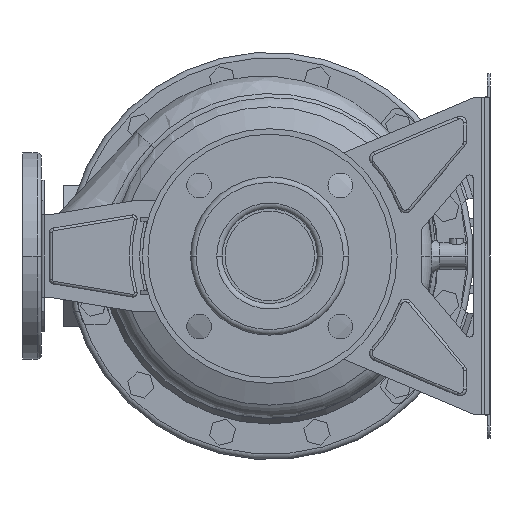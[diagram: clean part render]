
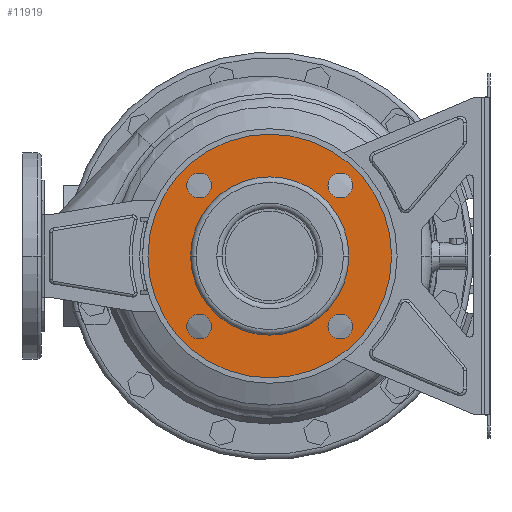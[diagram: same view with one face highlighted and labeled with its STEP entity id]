
A CAD part, left-side view. The second image highlights one B-rep face of the part: STEP entity #11919.
In plain terms, the highlighted planar face has unit normal (-1, 0, 0).
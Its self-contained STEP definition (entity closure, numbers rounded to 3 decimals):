
#11252=CARTESIAN_POINT('',(12.,0.,0.));
#11253=DIRECTION('',(-1.,0.,0.));
#11254=DIRECTION('',(0.,1.,0.));
#11255=AXIS2_PLACEMENT_3D('',#11252,#11253,#11254);
#11260=CARTESIAN_POINT('',(12.,0.,0.));
#11261=DIRECTION('',(1.,0.,0.));
#11262=DIRECTION('',(0.,1.,0.));
#11263=AXIS2_PLACEMENT_3D('',#11260,#11261,#11262);
#11268=CARTESIAN_POINT('',(12.,-51.265,51.265));
#11269=DIRECTION('',(1.,0.,0.));
#11270=DIRECTION('',(0.,1.,0.));
#11271=AXIS2_PLACEMENT_3D('',#11268,#11269,#11270);
#11276=CARTESIAN_POINT('',(12.,-51.265,51.265));
#11277=DIRECTION('',(1.,0.,0.));
#11278=DIRECTION('',(0.,-1.,0.));
#11279=AXIS2_PLACEMENT_3D('',#11276,#11277,#11278);
#11284=CARTESIAN_POINT('',(12.,-51.265,-51.265));
#11285=DIRECTION('',(1.,0.,0.));
#11286=DIRECTION('',(0.,0.,1.));
#11287=AXIS2_PLACEMENT_3D('',#11284,#11285,#11286);
#11292=CARTESIAN_POINT('',(12.,-51.265,-51.265));
#11293=DIRECTION('',(1.,0.,0.));
#11294=DIRECTION('',(0.,0.,-1.));
#11295=AXIS2_PLACEMENT_3D('',#11292,#11293,#11294);
#11300=CARTESIAN_POINT('',(12.,51.265,-51.265));
#11301=DIRECTION('',(1.,0.,0.));
#11302=DIRECTION('',(0.,-1.,0.));
#11303=AXIS2_PLACEMENT_3D('',#11300,#11301,#11302);
#11308=CARTESIAN_POINT('',(12.,51.265,-51.265));
#11309=DIRECTION('',(1.,0.,0.));
#11310=DIRECTION('',(0.,1.,0.));
#11311=AXIS2_PLACEMENT_3D('',#11308,#11309,#11310);
#11316=CARTESIAN_POINT('',(12.,51.265,51.265));
#11317=DIRECTION('',(1.,0.,0.));
#11318=DIRECTION('',(0.,0.,-1.));
#11319=AXIS2_PLACEMENT_3D('',#11316,#11317,#11318);
#11324=CARTESIAN_POINT('',(12.,51.265,51.265));
#11325=DIRECTION('',(1.,0.,0.));
#11326=DIRECTION('',(0.,0.,1.));
#11327=AXIS2_PLACEMENT_3D('',#11324,#11325,#11326);
#11332=CARTESIAN_POINT('',(12.,0.,0.));
#11333=DIRECTION('',(1.,0.,0.));
#11334=DIRECTION('',(0.,1.,0.));
#11335=AXIS2_PLACEMENT_3D('',#11332,#11333,#11334);
#11354=CARTESIAN_POINT('',(12.,0.,0.));
#11355=DIRECTION('',(-1.,0.,0.));
#11356=DIRECTION('',(0.,1.,0.));
#11357=AXIS2_PLACEMENT_3D('',#11354,#11355,#11356);
#11519=CARTESIAN_POINT('',(12.,88.5,0.));
#11521=VERTEX_POINT('',#11519);
#11522=CARTESIAN_POINT('',(12.,57.5,0.));
#11524=VERTEX_POINT('',#11522);
#11551=CARTESIAN_POINT('',(12.,-88.5,0.));
#11553=VERTEX_POINT('',#11551);
#11554=CARTESIAN_POINT('',(12.,-57.5,0.));
#11556=VERTEX_POINT('',#11554);
#11566=CARTESIAN_POINT('',(12.,-42.265,51.265));
#11567=CARTESIAN_POINT('',(12.,-60.265,51.265));
#11568=VERTEX_POINT('',#11566);
#11569=VERTEX_POINT('',#11567);
#11574=CARTESIAN_POINT('',(12.,-51.265,-42.265));
#11575=CARTESIAN_POINT('',(12.,-51.265,-60.265));
#11576=VERTEX_POINT('',#11574);
#11577=VERTEX_POINT('',#11575);
#11582=CARTESIAN_POINT('',(12.,42.265,-51.265));
#11583=CARTESIAN_POINT('',(12.,60.265,-51.265));
#11584=VERTEX_POINT('',#11582);
#11585=VERTEX_POINT('',#11583);
#11590=CARTESIAN_POINT('',(12.,51.265,42.265));
#11591=CARTESIAN_POINT('',(12.,51.265,60.265));
#11592=VERTEX_POINT('',#11590);
#11593=VERTEX_POINT('',#11591);
#11880=CARTESIAN_POINT('',(12.,0.,0.));
#11881=DIRECTION('',(1.,0.,0.));
#11882=DIRECTION('',(0.,-1.,0.));
#11883=AXIS2_PLACEMENT_3D('',#11880,#11881,#11882);
#11884=PLANE('',#11883);
#11885=ORIENTED_EDGE('',*,*,#11873,.F.);
#11886=ORIENTED_EDGE('',*,*,#11862,.T.);
#11887=EDGE_LOOP('',(#11885,#11886));
#11888=FACE_OUTER_BOUND('',#11887,.F.);
#11890=ORIENTED_EDGE('',*,*,#11889,.F.);
#11892=ORIENTED_EDGE('',*,*,#11891,.T.);
#11893=EDGE_LOOP('',(#11890,#11892));
#11894=FACE_BOUND('',#11893,.F.);
#11896=ORIENTED_EDGE('',*,*,#11895,.F.);
#11898=ORIENTED_EDGE('',*,*,#11897,.F.);
#11899=EDGE_LOOP('',(#11896,#11898));
#11900=FACE_BOUND('',#11899,.F.);
#11902=ORIENTED_EDGE('',*,*,#11901,.F.);
#11904=ORIENTED_EDGE('',*,*,#11903,.F.);
#11905=EDGE_LOOP('',(#11902,#11904));
#11906=FACE_BOUND('',#11905,.F.);
#11908=ORIENTED_EDGE('',*,*,#11907,.F.);
#11910=ORIENTED_EDGE('',*,*,#11909,.F.);
#11911=EDGE_LOOP('',(#11908,#11910));
#11912=FACE_BOUND('',#11911,.F.);
#11914=ORIENTED_EDGE('',*,*,#11913,.F.);
#11916=ORIENTED_EDGE('',*,*,#11915,.F.);
#11917=EDGE_LOOP('',(#11914,#11916));
#11918=FACE_BOUND('',#11917,.F.);
#11256=CIRCLE('',#11255,88.5);
#11264=CIRCLE('',#11263,88.5);
#11272=CIRCLE('',#11271,9.);
#11280=CIRCLE('',#11279,9.);
#11288=CIRCLE('',#11287,9.);
#11296=CIRCLE('',#11295,9.);
#11304=CIRCLE('',#11303,9.);
#11312=CIRCLE('',#11311,9.);
#11320=CIRCLE('',#11319,9.);
#11328=CIRCLE('',#11327,9.);
#11336=CIRCLE('',#11335,57.5);
#11358=CIRCLE('',#11357,57.5);
#11862=EDGE_CURVE('',#11521,#11553,#11264,.T.);
#11873=EDGE_CURVE('',#11521,#11553,#11256,.T.);
#11889=EDGE_CURVE('',#11524,#11556,#11336,.T.);
#11891=EDGE_CURVE('',#11524,#11556,#11358,.T.);
#11895=EDGE_CURVE('',#11568,#11569,#11272,.T.);
#11897=EDGE_CURVE('',#11569,#11568,#11280,.T.);
#11901=EDGE_CURVE('',#11576,#11577,#11288,.T.);
#11903=EDGE_CURVE('',#11577,#11576,#11296,.T.);
#11907=EDGE_CURVE('',#11584,#11585,#11304,.T.);
#11909=EDGE_CURVE('',#11585,#11584,#11312,.T.);
#11913=EDGE_CURVE('',#11592,#11593,#11320,.T.);
#11915=EDGE_CURVE('',#11593,#11592,#11328,.T.);
#11919=ADVANCED_FACE('',(#11888,#11894,#11900,#11906,#11912,#11918),#11884,.F.);
